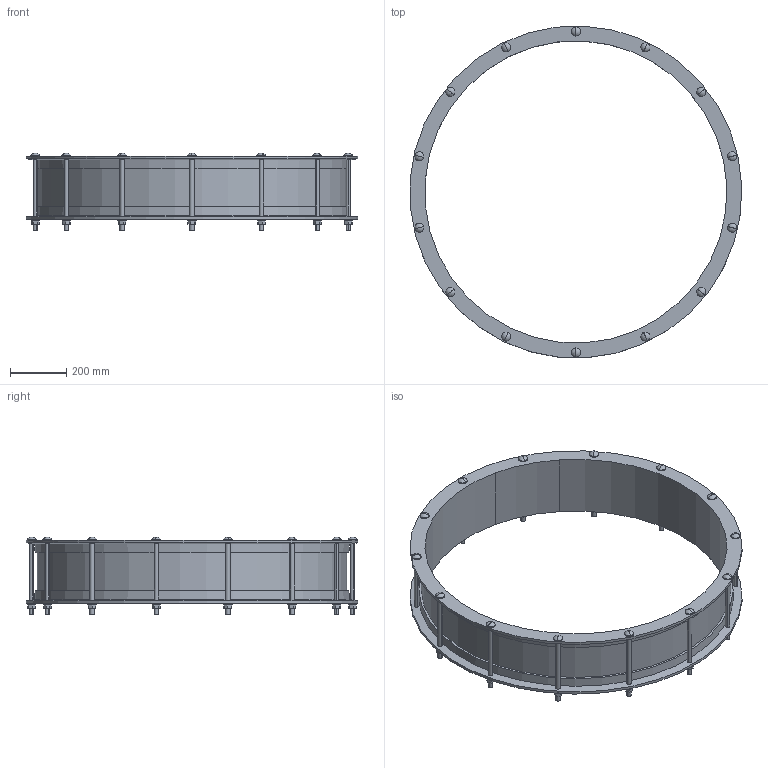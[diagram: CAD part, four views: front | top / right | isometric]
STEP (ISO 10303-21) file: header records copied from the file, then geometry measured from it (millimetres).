
FILE_DESCRIPTION((''),'2;1');
FILE_NAME('YF2_COUP_1067','2018-12-06T',('mfairey'),('Glynwed Pipe Systems'),'CREO PARAMETRIC BY PTC INC, 2016130','CREO PARAMETRIC BY PTC INC, 2016130','');
FILE_SCHEMA(('CONFIG_CONTROL_DESIGN'));
Length unit declared in the file: millimetre
Products named in the file (1): YF2_COUP_1067
Bounding box: 1174.19 x 1174.4 x 276 mm (x, y, z)
Volume: 16413056.8 mm3; surface area: 2337738.8 mm2
Topology: 1 solids, 1 shells, 286 faces, 684 edges, 430 vertices
Faces by surface type: plane 130, cylinder 120, sphere 28, cone 8
Entity records: 9414 total; most frequent: CARTESIAN_POINT 2716, DIRECTION 1392, ORIENTED_EDGE 1312, EDGE_CURVE 656, AXIS2_PLACEMENT_3D 506, VERTEX_POINT 430, VECTOR 380, LINE 380
